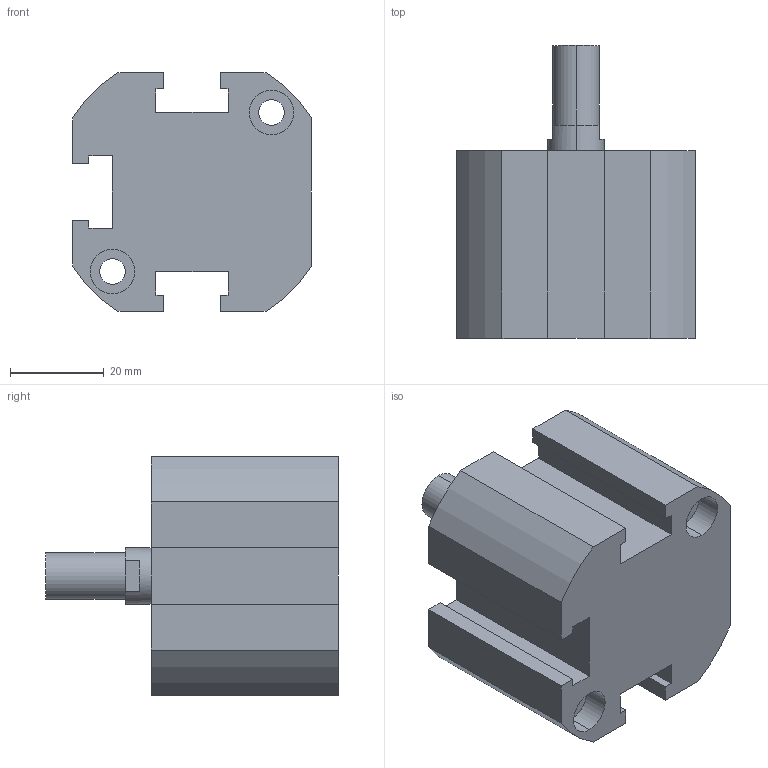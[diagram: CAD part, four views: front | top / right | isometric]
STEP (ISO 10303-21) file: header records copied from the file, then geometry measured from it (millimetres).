
FILE_DESCRIPTION (( 'STEP AP203' ), '1' );
FILE_NAME ('XC#M2-32D-10.STEP', '2016-05-23T08:45:10', ( '' ), ( '' ), 'SwSTEP 2.0', 'SolidWorks 2014', '' );
FILE_SCHEMA (( 'CONFIG_CONTROL_DESIGN' ));
Length unit declared in the file: millimetre
Products named in the file (1): XC#M2-32D-10
Bounding box: 51 x 62.5 x 51 mm (x, y, z)
Volume: 80123.5 mm3; surface area: 17624.6 mm2
Topology: 1 solids, 1 shells, 98 faces, 247 edges, 160 vertices
Faces by surface type: plane 48, cylinder 42, cone 8
Entity records: 3022 total; most frequent: DIRECTION 539, CARTESIAN_POINT 502, ORIENTED_EDGE 486, EDGE_CURVE 243, AXIS2_PLACEMENT_3D 197, VERTEX_POINT 160, LINE 145, VECTOR 145
